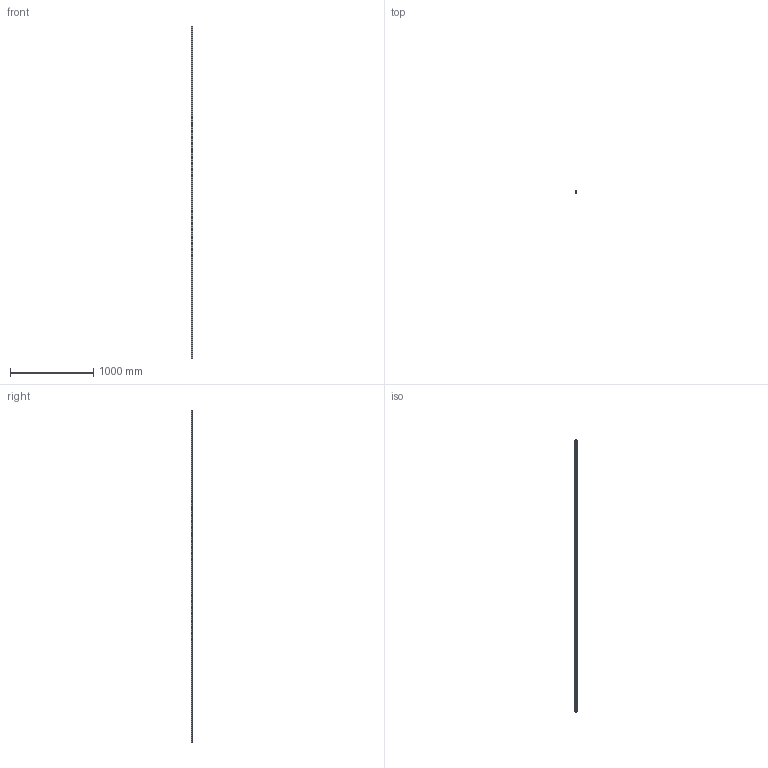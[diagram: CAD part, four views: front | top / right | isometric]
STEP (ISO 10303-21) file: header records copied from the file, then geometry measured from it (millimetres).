
FILE_DESCRIPTION((''),'2;1');
FILE_NAME('1605-80X-XX','2003-02-14T',('07501'),(''),'PRO/ENGINEER BY PARAMETRIC TECHNOLOGY CORPORATION, 2001430','PRO/ENGINEER BY PARAMETRIC TECHNOLOGY CORPORATION, 2001430','');
FILE_SCHEMA(('CONFIG_CONTROL_DESIGN'));
Length unit declared in the file: millimetre
Products named in the file (1): 1605-80X-XX
Bounding box: 20 x 20.55 x 4000 mm (x, y, z)
Volume: 1188901.8 mm3; surface area: 369811.2 mm2
Topology: 1 solids, 1 shells, 367 faces, 894 edges, 596 vertices
Faces by surface type: bspline 367
Entity records: 17586 total; most frequent: CARTESIAN_POINT 9438, ORIENTED_EDGE 1788, DIRECTION 1438, EDGE_CURVE 894, VERTEX_POINT 596, EDGE_LOOP 568, AXIS2_PLACEMENT_3D 544, CIRCLE 544
